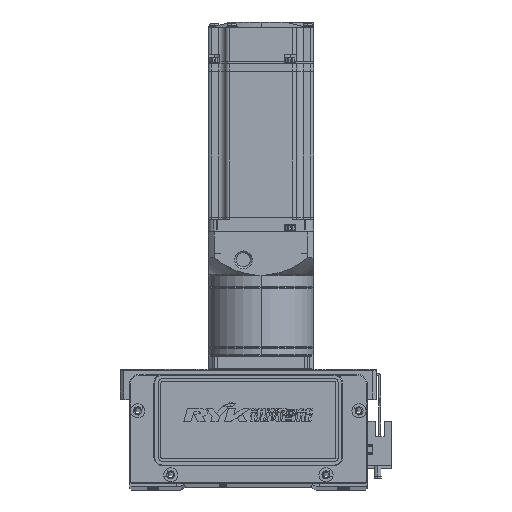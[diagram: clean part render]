
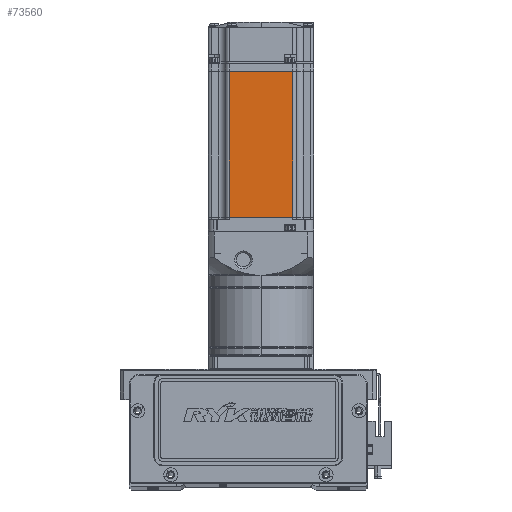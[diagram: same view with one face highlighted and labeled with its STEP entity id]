
A CAD part, top view. The second image highlights one B-rep face of the part: STEP entity #73560.
In plain terms, the highlighted planar face has unit normal (0, 0, 1).
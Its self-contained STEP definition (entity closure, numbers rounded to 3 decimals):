
#1241 = DIRECTION ( 'NONE',  ( 0., -1., 0. ) ) ;
#1982 = LINE ( 'NONE', #38954, #28822 ) ;
#3142 = CARTESIAN_POINT ( 'NONE',  ( -6.5, -18., 30. ) ) ;
#3740 = VECTOR ( 'NONE', #52748, 1000. ) ;
#5499 = CARTESIAN_POINT ( 'NONE',  ( -90.45, -18., 30. ) ) ;
#5741 = EDGE_CURVE ( 'NONE', #32121, #8212, #61697, .T. ) ;
#7378 = LINE ( 'NONE', #35580, #30499 ) ;
#8212 = VERTEX_POINT ( 'NONE', #5499 ) ;
#10147 = DIRECTION ( 'NONE',  ( 1., 0., 0. ) ) ;
#10831 = VERTEX_POINT ( 'NONE', #18305 ) ;
#13459 = VECTOR ( 'NONE', #1241, 1000. ) ;
#16682 = ORIENTED_EDGE ( 'NONE', *, *, #18284, .T. ) ;
#17392 = DIRECTION ( 'NONE',  ( 0., -1., 0. ) ) ;
#18011 = CARTESIAN_POINT ( 'NONE',  ( -90.45, 0., 30. ) ) ;
#18284 = EDGE_CURVE ( 'NONE', #51385, #32121, #1982, .T. ) ;
#18305 = CARTESIAN_POINT ( 'NONE',  ( -7.75, -18., 30. ) ) ;
#26801 = DIRECTION ( 'NONE',  ( 0., 0., 1. ) ) ;
#28232 = DIRECTION ( 'NONE',  ( -1., 0., 0. ) ) ;
#28822 = VECTOR ( 'NONE', #28232, 1000. ) ;
#29576 = FACE_OUTER_BOUND ( 'NONE', #73900, .T. ) ;
#29856 = AXIS2_PLACEMENT_3D ( 'NONE', #43499, #26801, #10147 ) ;
#30499 = VECTOR ( 'NONE', #17392, 1000. ) ;
#31458 = LINE ( 'NONE', #3142, #3740 ) ;
#32121 = VERTEX_POINT ( 'NONE', #62530 ) ;
#32840 = ORIENTED_EDGE ( 'NONE', *, *, #5741, .T. ) ;
#35580 = CARTESIAN_POINT ( 'NONE',  ( -7.75, 0., 30. ) ) ;
#38954 = CARTESIAN_POINT ( 'NONE',  ( -6.5, 18., 30. ) ) ;
#43499 = CARTESIAN_POINT ( 'NONE',  ( -6.5, -25., 30. ) ) ;
#48709 = ORIENTED_EDGE ( 'NONE', *, *, #49873, .F. ) ;
#49873 = EDGE_CURVE ( 'NONE', #10831, #8212, #31458, .T. ) ;
#51053 = ORIENTED_EDGE ( 'NONE', *, *, #68910, .F. ) ;
#51385 = VERTEX_POINT ( 'NONE', #56192 ) ;
#52748 = DIRECTION ( 'NONE',  ( -1., 0., 0. ) ) ;
#55257 = PLANE ( 'NONE',  #29856 ) ;
#56192 = CARTESIAN_POINT ( 'NONE',  ( -7.75, 18., 30. ) ) ;
#61697 = LINE ( 'NONE', #18011, #13459 ) ;
#62530 = CARTESIAN_POINT ( 'NONE',  ( -90.45, 18., 30. ) ) ;
#68910 = EDGE_CURVE ( 'NONE', #51385, #10831, #7378, .T. ) ;
#73560 = ADVANCED_FACE ( 'NONE', ( #29576 ), #55257, .T. ) ;
#73900 = EDGE_LOOP ( 'NONE', ( #51053, #16682, #32840, #48709 ) ) ;
